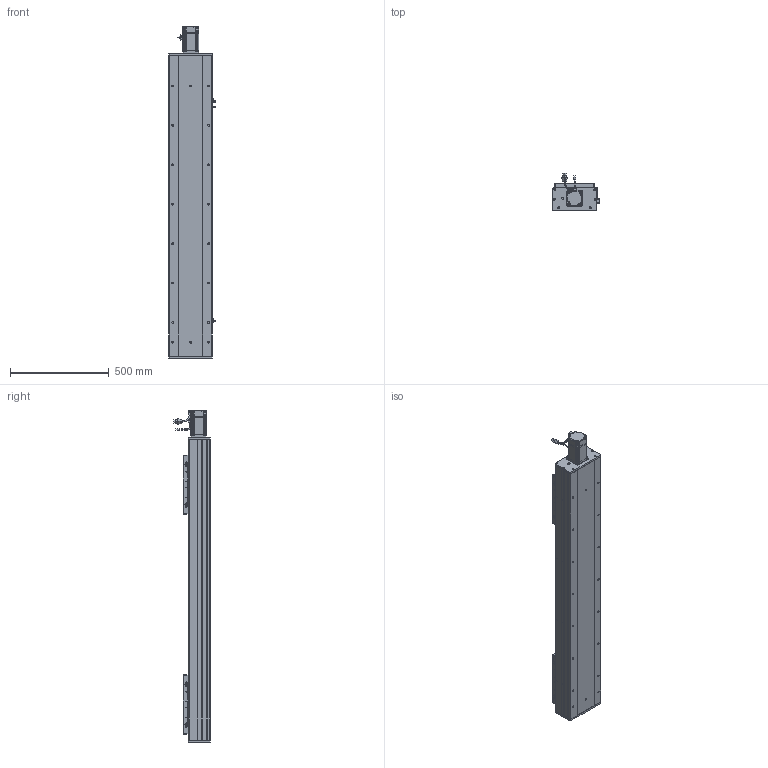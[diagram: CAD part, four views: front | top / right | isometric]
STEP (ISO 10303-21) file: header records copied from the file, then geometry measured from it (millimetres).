
FILE_DESCRIPTION (( 'STEP AP203' ), '1' );
FILE_NAME ('RY220F-L2525-300-MK.SLDASM_1100.step', '2022-07-04T01:03:51', ( '' ), ( '' ), 'SwSTEP 2.0', 'SolidWorks 2016', '' );
FILE_SCHEMA (( 'CONFIG_CONTROL_DESIGN' ));
Length unit declared in the file: millimetre
Products named in the file (15): RY220F-祥凄詩湍-MK-300_1100; RY220Fヶ裔啣; RY220F綴裔啣; RY220F-672覜茼んえ; 滅袉蝶18-24; RY220F-L2525-300-MK.SLDASM_1100; 滅袉蝶18-20; RY220F-滅鳥奻裔; RY220F菁釱MK-300_1100; 覜茼ん672; RY220F-奻裔啣-300_1100; RY220F-詩湍揤踡輸; 怢湛750W_ECMA-CX0807ES; RY220F臏賑釱25-32佪裝; RY220电机支撑座FK20（PCD90M6）
Assembly tree (23 placements, depth 2):
  RY220F-L2525-300-MK.SLDASM_1100
    RY220F菁釱MK-300_1100
    RY220电机支撑座FK20（PCD90M6）
    RY220F-奻裔啣-300_1100  x2
    怢湛750W_ECMA-CX0807ES
    RY220F臏賑釱25-32佪裝  x2
    RY220F-滅鳥奻裔  x2
    滅袉蝶18-20
    滅袉蝶18-24  x3
    RY220Fヶ裔啣
    RY220F綴裔啣
    RY220F-祥凄詩湍-MK-300_1100
    RY220F-詩湍揤踡輸  x2
    覜茼ん672  x3
    RY220F-672覜茼んえ  x2
Bounding box: 233.7 x 187.27 x 1684.3 mm (x, y, z)
Volume: 15505879.7 mm3; surface area: 3867436.6 mm2
Topology: 24 solids, 24 shells, 2770 faces, 7586 edges, 4694 vertices
Faces by surface type: cylinder 1254, plane 1030, cone 423, bspline 37, sphere 16, torus 10
Entity records: 69186 total; most frequent: CARTESIAN_POINT 18522, ORIENTED_EDGE 10258, DIRECTION 9998, EDGE_CURVE 5129, AXIS2_PLACEMENT_3D 3563, VERTEX_POINT 3334, LINE 2872, VECTOR 2872
